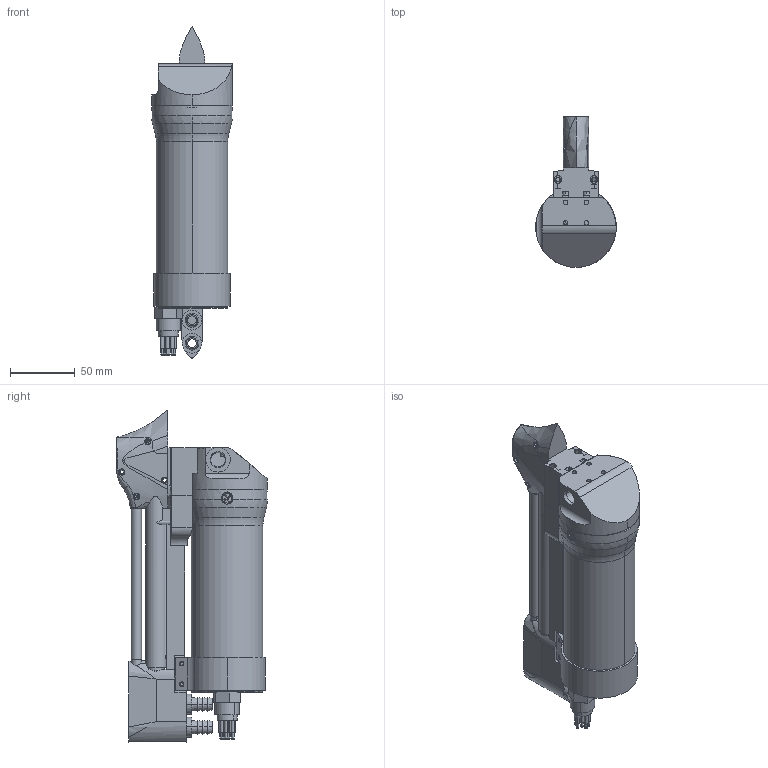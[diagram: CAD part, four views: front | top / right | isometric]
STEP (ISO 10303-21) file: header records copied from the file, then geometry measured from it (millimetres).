
FILE_DESCRIPTION (( 'STEP AP203' ), '1' );
FILE_NAME ('GPCTD 1500M MCBH SHELL.STEP', '2026-07-09T17:07:32', ( '' ), ( '' ), 'SwSTEP 2.0', 'SolidWorks 2025', '' );
FILE_SCHEMA (( 'CONFIG_CONTROL_DESIGN' ));
Length unit declared in the file: inch
Products named in the file (1): GPCTD 1500M MCBH SHELL
Bounding box: 62.23 x 116.42 x 256.43 mm (x, y, z)
Surface area: 99509.8 mm2 (no closed solid volume)
Topology: 0 solids, 51 shells, 507 faces, 1525 edges, 1035 vertices
Faces by surface type: plane 200, cylinder 198, cone 63, bspline 20, torus 18, sphere 8
Entity records: 23756 total; most frequent: CARTESIAN_POINT 10415, DIRECTION 2782, ORIENTED_EDGE 2512, EDGE_CURVE 1489, AXIS2_PLACEMENT_3D 1026, VERTEX_POINT 1019, LINE 730, VECTOR 730
